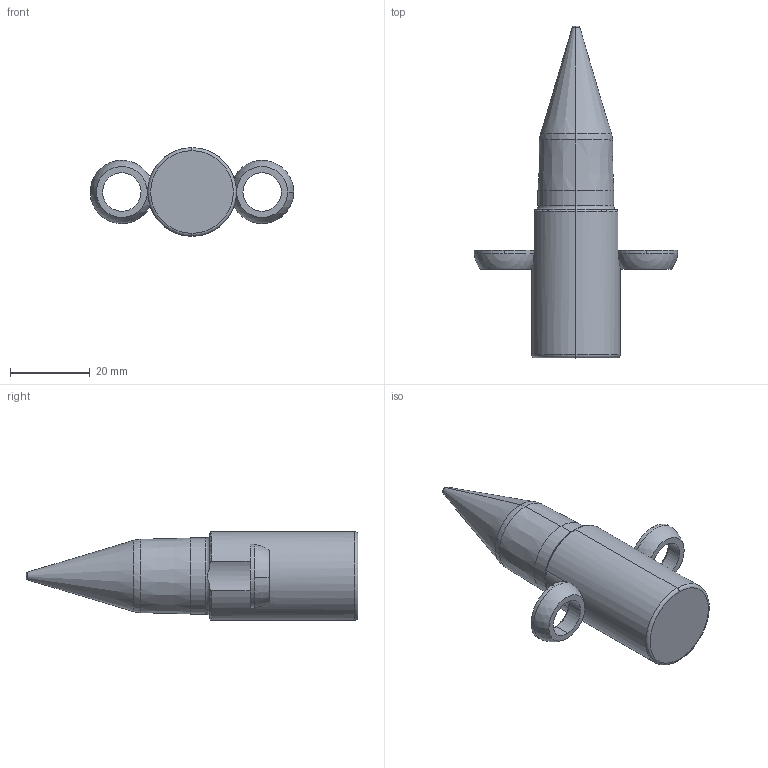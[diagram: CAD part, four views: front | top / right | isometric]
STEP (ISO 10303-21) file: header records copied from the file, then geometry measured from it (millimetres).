
FILE_DESCRIPTION (( 'STEP AP214' ), '1' );
FILE_NAME ('PA-T-.750-.150-0.5-3-A-F2.STEP', '2019-05-08T17:47:09', ( '' ), ( '' ), 'SwSTEP 2.0', 'SolidWorks 2017', '' );
FILE_SCHEMA (( 'AUTOMOTIVE_DESIGN' ));
Length unit declared in the file: inch
Products named in the file (3): PA-T-.750-.150-0.5-3-A-F2; SLPilot-PA-T-E_PA-T-.750-.150-0.5-3-A-F2; SLRadiusWasher_RadiusWasher-E
Assembly tree (3 placements, depth 2):
  PA-T-.750-.150-0.5-3-A-F2
    SLPilot-PA-T-E_PA-T-.750-.150-0.5-3-A-F2
    SLRadiusWasher_RadiusWasher-E  x2
Bounding box: 51.02 x 83.19 x 22.23 mm (x, y, z)
Volume: 22939.8 mm3; surface area: 6114.5 mm2
Topology: 3 solids, 3 shells, 49 faces, 112 edges, 69 vertices
Faces by surface type: cylinder 14, torus 11, sphere 8, cone 8, plane 8
Entity records: 1376 total; most frequent: CARTESIAN_POINT 324, DIRECTION 232, ORIENTED_EDGE 180, AXIS2_PLACEMENT_3D 107, EDGE_CURVE 90, CIRCLE 62, VERTEX_POINT 55, EDGE_LOOP 41
